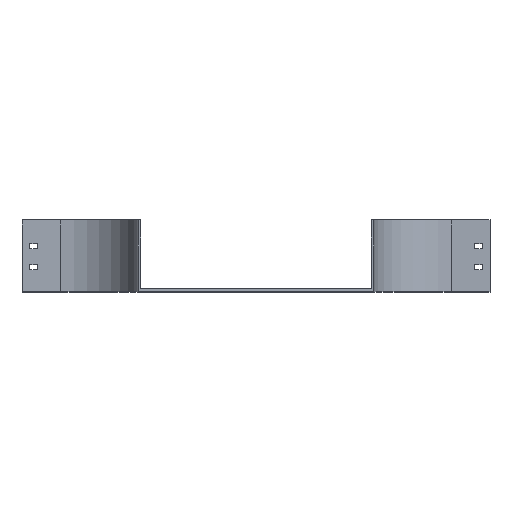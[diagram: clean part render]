
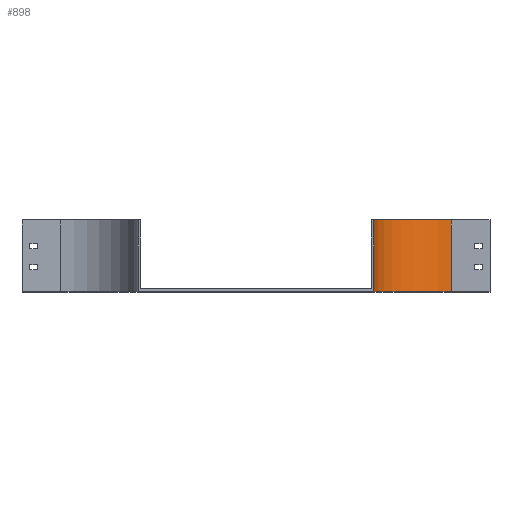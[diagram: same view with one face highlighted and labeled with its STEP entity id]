
A CAD part, top view. The second image highlights one B-rep face of the part: STEP entity #898.
In plain terms, the highlighted cylindrical face has radius 100 mm (diameter 200 mm), a partial arc.
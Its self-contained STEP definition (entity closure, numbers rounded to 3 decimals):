
#9 = CARTESIAN_POINT ( 'NONE',  ( 0., 0., 0. ) ) ;
#35 = VECTOR ( 'NONE', #3796, 1000. ) ;
#332 = EDGE_CURVE ( 'NONE', #3043, #1891, #1465, .T. ) ;
#579 = ORIENTED_EDGE ( 'NONE', *, *, #1531, .T. ) ;
#609 = AXIS2_PLACEMENT_3D ( 'NONE', #9, #3246, #3213 ) ;
#806 = DIRECTION ( 'NONE',  ( 0., -1., 0. ) ) ;
#898 = ADVANCED_FACE ( 'NONE', ( #3824 ), #3490, .F. ) ;
#1027 = DIRECTION ( 'NONE',  ( 0., -1., 0. ) ) ;
#1086 = DIRECTION ( 'NONE',  ( 0., 0., -1. ) ) ;
#1146 = EDGE_CURVE ( 'NONE', #1796, #3043, #1807, .T. ) ;
#1183 = DIRECTION ( 'NONE',  ( 0., 0., -1. ) ) ;
#1238 = ORIENTED_EDGE ( 'NONE', *, *, #3119, .T. ) ;
#1440 = AXIS2_PLACEMENT_3D ( 'NONE', #3783, #2966, #1183 ) ;
#1465 = LINE ( 'NONE', #2105, #35 ) ;
#1531 = EDGE_CURVE ( 'NONE', #2920, #1891, #1573, .T. ) ;
#1573 = CIRCLE ( 'NONE', #609, 100. ) ;
#1796 = VERTEX_POINT ( 'NONE', #1889 ) ;
#1807 = CIRCLE ( 'NONE', #1914, 100. ) ;
#1889 = CARTESIAN_POINT ( 'NONE',  ( -100., 92.5, 0. ) ) ;
#1891 = VERTEX_POINT ( 'NONE', #3163 ) ;
#1914 = AXIS2_PLACEMENT_3D ( 'NONE', #3659, #806, #1086 ) ;
#1962 = ORIENTED_EDGE ( 'NONE', *, *, #332, .F. ) ;
#2105 = CARTESIAN_POINT ( 'NONE',  ( 0., 92.5, -100. ) ) ;
#2324 = CARTESIAN_POINT ( 'NONE',  ( 0., 92.5, -100. ) ) ;
#2497 = LINE ( 'NONE', #3645, #2612 ) ;
#2517 = CARTESIAN_POINT ( 'NONE',  ( -100., 0., 0. ) ) ;
#2612 = VECTOR ( 'NONE', #1027, 1000. ) ;
#2681 = ORIENTED_EDGE ( 'NONE', *, *, #1146, .F. ) ;
#2699 = EDGE_LOOP ( 'NONE', ( #579, #1962, #2681, #1238 ) ) ;
#2920 = VERTEX_POINT ( 'NONE', #2517 ) ;
#2966 = DIRECTION ( 'NONE',  ( 0., -1., 0. ) ) ;
#3043 = VERTEX_POINT ( 'NONE', #2324 ) ;
#3119 = EDGE_CURVE ( 'NONE', #1796, #2920, #2497, .T. ) ;
#3163 = CARTESIAN_POINT ( 'NONE',  ( 0., 0., -100. ) ) ;
#3213 = DIRECTION ( 'NONE',  ( 0., 0., -1. ) ) ;
#3246 = DIRECTION ( 'NONE',  ( 0., -1., 0. ) ) ;
#3490 = CYLINDRICAL_SURFACE ( 'NONE', #1440, 100. ) ;
#3645 = CARTESIAN_POINT ( 'NONE',  ( -100., 92.5, 0. ) ) ;
#3659 = CARTESIAN_POINT ( 'NONE',  ( 0., 92.5, 0. ) ) ;
#3783 = CARTESIAN_POINT ( 'NONE',  ( 0., 92.5, 0. ) ) ;
#3796 = DIRECTION ( 'NONE',  ( 0., -1., 0. ) ) ;
#3824 = FACE_OUTER_BOUND ( 'NONE', #2699, .T. ) ;
